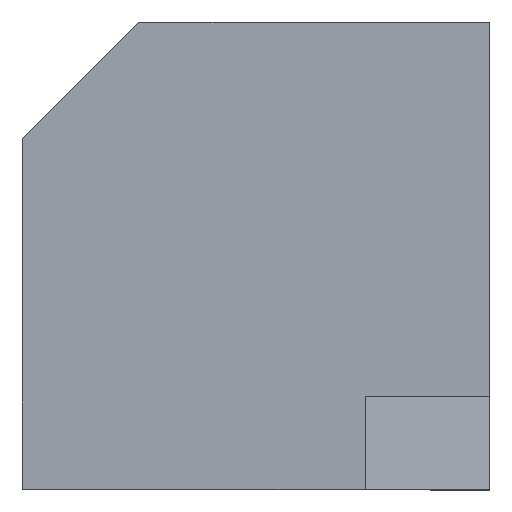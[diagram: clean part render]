
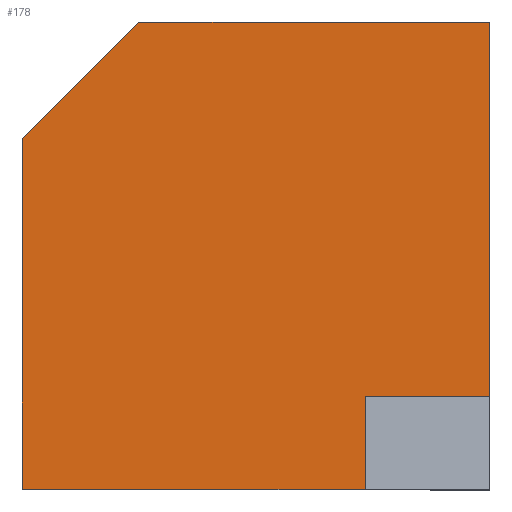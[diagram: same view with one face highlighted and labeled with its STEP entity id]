
A CAD part, top view. The second image highlights one B-rep face of the part: STEP entity #178.
In plain terms, the highlighted planar face has unit normal (0, 0, 1).
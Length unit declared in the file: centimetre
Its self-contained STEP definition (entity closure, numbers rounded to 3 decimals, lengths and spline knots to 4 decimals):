
#2 = LINE ( 'NONE', #607, #622 ) ;
#4 = VECTOR ( 'NONE', #132, 100. ) ;
#15 = EDGE_CURVE ( 'NONE', #506, #537, #77, .T. ) ;
#16 = CARTESIAN_POINT ( 'NONE',  ( 1000., 1000., 1000. ) ) ;
#33 = CARTESIAN_POINT ( 'NONE',  ( 733.7415, 199.3971, 1000. ) ) ;
#37 = CARTESIAN_POINT ( 'NONE',  ( 0., 0., 1000. ) ) ;
#64 = EDGE_CURVE ( 'NONE', #537, #242, #193, .T. ) ;
#69 = DIRECTION ( 'NONE',  ( 0., -1., 0. ) ) ;
#70 = DIRECTION ( 'NONE',  ( -1., 0., 0. ) ) ;
#77 = LINE ( 'NONE', #682, #431 ) ;
#107 = CARTESIAN_POINT ( 'NONE',  ( 733.7415, 0., 1000. ) ) ;
#130 = CARTESIAN_POINT ( 'NONE',  ( 733.7415, 199.3971, 1000. ) ) ;
#132 = DIRECTION ( 'NONE',  ( 0., 1., 0. ) ) ;
#134 = CARTESIAN_POINT ( 'NONE',  ( 249.224, 1000., 1000. ) ) ;
#152 = CARTESIAN_POINT ( 'NONE',  ( 0., 1000., 1000. ) ) ;
#177 = VECTOR ( 'NONE', #704, 100. ) ;
#178 = ADVANCED_FACE ( 'NONE', ( #255 ), #718, .T. ) ;
#185 = EDGE_CURVE ( 'NONE', #506, #422, #648, .T. ) ;
#193 = LINE ( 'NONE', #33, #177 ) ;
#196 = CARTESIAN_POINT ( 'NONE',  ( 1000., 1000., 1000. ) ) ;
#198 = ORIENTED_EDGE ( 'NONE', *, *, #15, .F. ) ;
#210 = DIRECTION ( 'NONE',  ( -1., 0., 0. ) ) ;
#212 = VECTOR ( 'NONE', #210, 100. ) ;
#218 = CARTESIAN_POINT ( 'NONE',  ( 1000., 199.3971, 1000. ) ) ;
#235 = VECTOR ( 'NONE', #666, 100. ) ;
#242 = VERTEX_POINT ( 'NONE', #107 ) ;
#243 = DIRECTION ( 'NONE',  ( 0., 0., 1. ) ) ;
#245 = ORIENTED_EDGE ( 'NONE', *, *, #64, .F. ) ;
#255 = FACE_OUTER_BOUND ( 'NONE', #542, .T. ) ;
#277 = VERTEX_POINT ( 'NONE', #554 ) ;
#287 = ORIENTED_EDGE ( 'NONE', *, *, #185, .T. ) ;
#307 = AXIS2_PLACEMENT_3D ( 'NONE', #37, #243, #710 ) ;
#324 = ORIENTED_EDGE ( 'NONE', *, *, #632, .T. ) ;
#341 = CARTESIAN_POINT ( 'NONE',  ( 0., 1000., 1000. ) ) ;
#358 = EDGE_CURVE ( 'NONE', #486, #242, #430, .T. ) ;
#365 = ORIENTED_EDGE ( 'NONE', *, *, #358, .T. ) ;
#381 = VECTOR ( 'NONE', #69, 100. ) ;
#396 = ORIENTED_EDGE ( 'NONE', *, *, #402, .T. ) ;
#402 = EDGE_CURVE ( 'NONE', #277, #486, #639, .T. ) ;
#422 = VERTEX_POINT ( 'NONE', #16 ) ;
#430 = LINE ( 'NONE', #493, #235 ) ;
#431 = VECTOR ( 'NONE', #70, 100. ) ;
#449 = ORIENTED_EDGE ( 'NONE', *, *, #642, .T. ) ;
#486 = VERTEX_POINT ( 'NONE', #505 ) ;
#493 = CARTESIAN_POINT ( 'NONE',  ( 0., 0., 1000. ) ) ;
#505 = CARTESIAN_POINT ( 'NONE',  ( 0., 0., 1000. ) ) ;
#506 = VERTEX_POINT ( 'NONE', #218 ) ;
#525 = VERTEX_POINT ( 'NONE', #134 ) ;
#537 = VERTEX_POINT ( 'NONE', #130 ) ;
#542 = EDGE_LOOP ( 'NONE', ( #245, #198, #287, #449, #324, #396, #365 ) ) ;
#554 = CARTESIAN_POINT ( 'NONE',  ( 0., 750.776, 1000. ) ) ;
#607 = CARTESIAN_POINT ( 'NONE',  ( -375.388, 375.388, 1000. ) ) ;
#622 = VECTOR ( 'NONE', #715, 100. ) ;
#632 = EDGE_CURVE ( 'NONE', #525, #277, #2, .T. ) ;
#639 = LINE ( 'NONE', #341, #381 ) ;
#642 = EDGE_CURVE ( 'NONE', #422, #525, #667, .T. ) ;
#648 = LINE ( 'NONE', #196, #4 ) ;
#666 = DIRECTION ( 'NONE',  ( 1., 0., 0. ) ) ;
#667 = LINE ( 'NONE', #152, #212 ) ;
#682 = CARTESIAN_POINT ( 'NONE',  ( 733.7415, 199.3971, 1000. ) ) ;
#704 = DIRECTION ( 'NONE',  ( 0., -1., 0. ) ) ;
#710 = DIRECTION ( 'NONE',  ( 1., 0., 0. ) ) ;
#715 = DIRECTION ( 'NONE',  ( -0.707, -0.707, 0. ) ) ;
#718 = PLANE ( 'NONE',  #307 ) ;
